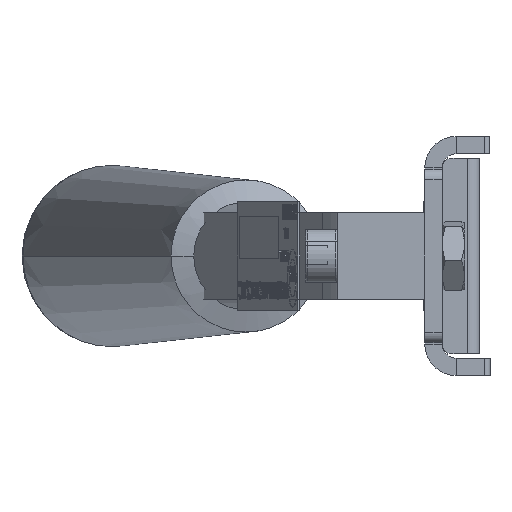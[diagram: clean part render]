
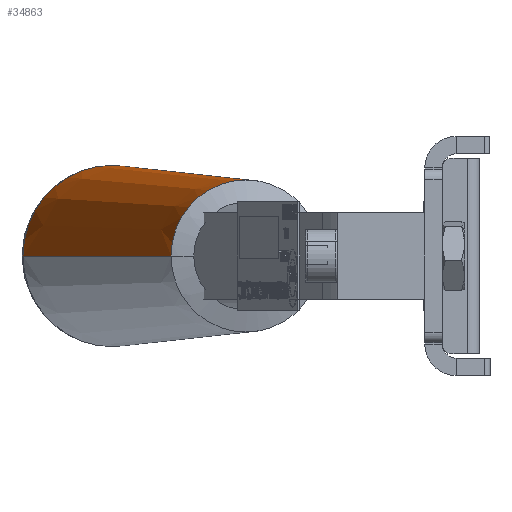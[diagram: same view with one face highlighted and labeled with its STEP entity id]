
A CAD part, left-side view. The second image highlights one B-rep face of the part: STEP entity #34863.
In plain terms, the highlighted conical face has half-angle 1.087 degrees and reference radius 11.113 mm.
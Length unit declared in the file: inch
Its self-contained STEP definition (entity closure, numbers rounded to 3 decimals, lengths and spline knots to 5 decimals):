
#1073 = VERTEX_POINT ( 'NONE', #45421 ) ;
#4730 = DIRECTION ( 'NONE',  ( 0.174, -0.985, 0. ) ) ;
#5570 = VERTEX_POINT ( 'NONE', #18551 ) ;
#7797 = EDGE_CURVE ( 'NONE', #5570, #24690, #38239, .T. ) ;
#8661 = DIRECTION ( 'NONE',  ( 0.174, -0.985, 0. ) ) ;
#10828 = EDGE_CURVE ( 'NONE', #11491, #5570, #26901, .T. ) ;
#11380 = CIRCLE ( 'NONE', #33130, 0.52151 ) ;
#11491 = VERTEX_POINT ( 'NONE', #44337 ) ;
#17601 = ORIENTED_EDGE ( 'NONE', *, *, #10828, .F. ) ;
#18551 = CARTESIAN_POINT ( 'NONE',  ( 4.36215, 0.95956, 0. ) ) ;
#19119 = CARTESIAN_POINT ( 'NONE',  ( 4.43812, 0.5287, 0. ) ) ;
#22831 = DIRECTION ( 'NONE',  ( -0.985, -0.174, 0. ) ) ;
#23499 = ORIENTED_EDGE ( 'NONE', *, *, #41704, .T. ) ;
#23561 = ORIENTED_EDGE ( 'NONE', *, *, #34947, .T. ) ;
#24241 = DIRECTION ( 'NONE',  ( 0.985, 0.174, 0. ) ) ;
#24672 = DIRECTION ( 'NONE',  ( -0.985, -0.174, 0. ) ) ;
#24690 = VERTEX_POINT ( 'NONE', #33510 ) ;
#26901 = CIRCLE ( 'NONE', #41993, 0.4375 ) ;
#27408 = DIRECTION ( 'NONE',  ( 0.981, 0.192, 0. ) ) ;
#31955 = CARTESIAN_POINT ( 'NONE',  ( 4.36215, 0.95956, 0. ) ) ;
#32132 = CARTESIAN_POINT ( 'NONE',  ( 8.79961, 1.29775, 0. ) ) ;
#32924 = CARTESIAN_POINT ( 'NONE',  ( 4.43812, 0.5287, 0. ) ) ;
#33130 = AXIS2_PLACEMENT_3D ( 'NONE', #32132, #22831, #8661 ) ;
#33510 = CARTESIAN_POINT ( 'NONE',  ( 8.70905, 1.81134, 0. ) ) ;
#34827 = CONICAL_SURFACE ( 'NONE', #41600, 0.4375, 0.019 ) ;
#34863 = ADVANCED_FACE ( 'NONE', ( #37206 ), #34827, .T. ) ;
#34947 = EDGE_CURVE ( 'NONE', #11491, #1073, #43563, .T. ) ;
#37206 = FACE_OUTER_BOUND ( 'NONE', #56383, .T. ) ;
#38239 = LINE ( 'NONE', #31955, #41217 ) ;
#41217 = VECTOR ( 'NONE', #27408, 39.37008 ) ;
#41600 = AXIS2_PLACEMENT_3D ( 'NONE', #19119, #24241, #48591 ) ;
#41704 = EDGE_CURVE ( 'NONE', #1073, #24690, #11380, .T. ) ;
#41993 = AXIS2_PLACEMENT_3D ( 'NONE', #32924, #24672, #4730 ) ;
#43396 = ORIENTED_EDGE ( 'NONE', *, *, #7797, .F. ) ;
#43563 = LINE ( 'NONE', #48807, #51633 ) ;
#44337 = CARTESIAN_POINT ( 'NONE',  ( 4.51409, 0.09785, 0. ) ) ;
#45421 = CARTESIAN_POINT ( 'NONE',  ( 8.89017, 0.78416, 0. ) ) ;
#48591 = DIRECTION ( 'NONE',  ( -0.174, 0.985, 0. ) ) ;
#48807 = CARTESIAN_POINT ( 'NONE',  ( 4.51409, 0.09785, 0. ) ) ;
#51633 = VECTOR ( 'NONE', #55525, 39.37008 ) ;
#55525 = DIRECTION ( 'NONE',  ( 0.988, 0.155, 0. ) ) ;
#56383 = EDGE_LOOP ( 'NONE', ( #17601, #23561, #23499, #43396 ) ) ;
